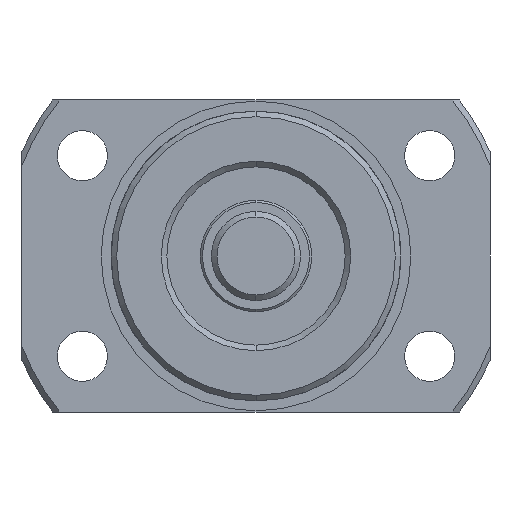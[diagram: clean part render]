
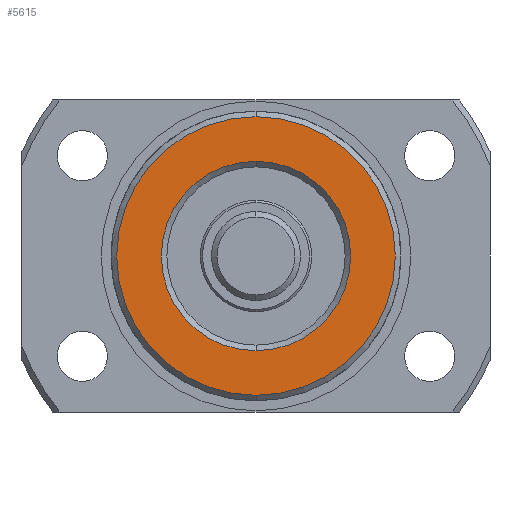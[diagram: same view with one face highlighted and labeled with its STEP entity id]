
A CAD part, left-side view. The second image highlights one B-rep face of the part: STEP entity #5615.
In plain terms, the highlighted planar face has unit normal (-1, 0, 0).
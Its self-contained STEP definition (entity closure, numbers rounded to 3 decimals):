
#221 = CARTESIAN_POINT ( 'NONE',  ( -40., 0., 0. ) ) ;
#222 = DIRECTION ( 'NONE',  ( -1., 0., 0. ) ) ;
#223 = DIRECTION ( 'NONE',  ( 0., 0., 1. ) ) ;
#718 = CARTESIAN_POINT ( 'NONE',  ( -40., 0., 8.5 ) ) ;
#813 = CARTESIAN_POINT ( 'NONE',  ( -40., 0., -8.5 ) ) ;
#899 = CARTESIAN_POINT ( 'NONE',  ( -40., 0., -12.5 ) ) ;
#1254 = AXIS2_PLACEMENT_3D ( 'NONE', #1799, #1620, #1849 ) ;
#1413 = AXIS2_PLACEMENT_3D ( 'NONE', #1921, #1933, #1930 ) ;
#1454 = AXIS2_PLACEMENT_3D ( 'NONE', #5733, #5731, #5729 ) ;
#1620 = DIRECTION ( 'NONE',  ( -1., 0., 0. ) ) ;
#1799 = CARTESIAN_POINT ( 'NONE',  ( -40., 0., 0. ) ) ;
#1849 = DIRECTION ( 'NONE',  ( 0., 0., 1. ) ) ;
#1921 = CARTESIAN_POINT ( 'NONE',  ( -40., 0., 0. ) ) ;
#1930 = DIRECTION ( 'NONE',  ( 0., 0., 1. ) ) ;
#1933 = DIRECTION ( 'NONE',  ( -1., 0., 0. ) ) ;
#1950 = EDGE_CURVE ( 'NONE', #3923, #3026, #4104, .T. ) ;
#2233 = AXIS2_PLACEMENT_3D ( 'NONE', #5224, #5223, #5228 ) ;
#2271 = AXIS2_PLACEMENT_3D ( 'NONE', #221, #222, #223 ) ;
#2728 = EDGE_LOOP ( 'NONE', ( #3848, #3774 ) ) ;
#2977 = VERTEX_POINT ( 'NONE', #813 ) ;
#3022 = CIRCLE ( 'NONE', #1454, 12.5 ) ;
#3026 = VERTEX_POINT ( 'NONE', #899 ) ;
#3100 = EDGE_LOOP ( 'NONE', ( #3906, #4155 ) ) ;
#3433 = CIRCLE ( 'NONE', #1413, 8.5 ) ;
#3457 = VERTEX_POINT ( 'NONE', #718 ) ;
#3774 = ORIENTED_EDGE ( 'NONE', *, *, #1950, .T. ) ;
#3848 = ORIENTED_EDGE ( 'NONE', *, *, #4827, .T. ) ;
#3906 = ORIENTED_EDGE ( 'NONE', *, *, #4730, .F. ) ;
#3923 = VERTEX_POINT ( 'NONE', #4538 ) ;
#4104 = CIRCLE ( 'NONE', #1254, 12.5 ) ;
#4155 = ORIENTED_EDGE ( 'NONE', *, *, #5830, .F. ) ;
#4538 = CARTESIAN_POINT ( 'NONE',  ( -40., 0., 12.5 ) ) ;
#4730 = EDGE_CURVE ( 'NONE', #3457, #2977, #3433, .T. ) ;
#4827 = EDGE_CURVE ( 'NONE', #3026, #3923, #3022, .T. ) ;
#5223 = DIRECTION ( 'NONE',  ( 1., 0., 0. ) ) ;
#5224 = CARTESIAN_POINT ( 'NONE',  ( -40., 12.5, 0. ) ) ;
#5226 = PLANE ( 'NONE',  #2233 ) ;
#5228 = DIRECTION ( 'NONE',  ( 0., 0., -1. ) ) ;
#5615 = ADVANCED_FACE ( 'NONE', ( #5947, #5938 ), #5226, .F. ) ;
#5729 = DIRECTION ( 'NONE',  ( 0., 0., 1. ) ) ;
#5731 = DIRECTION ( 'NONE',  ( -1., 0., 0. ) ) ;
#5733 = CARTESIAN_POINT ( 'NONE',  ( -40., 0., 0. ) ) ;
#5830 = EDGE_CURVE ( 'NONE', #2977, #3457, #6057, .T. ) ;
#5938 = FACE_OUTER_BOUND ( 'NONE', #2728, .T. ) ;
#5947 = FACE_BOUND ( 'NONE', #3100, .T. ) ;
#6057 = CIRCLE ( 'NONE', #2271, 8.5 ) ;
